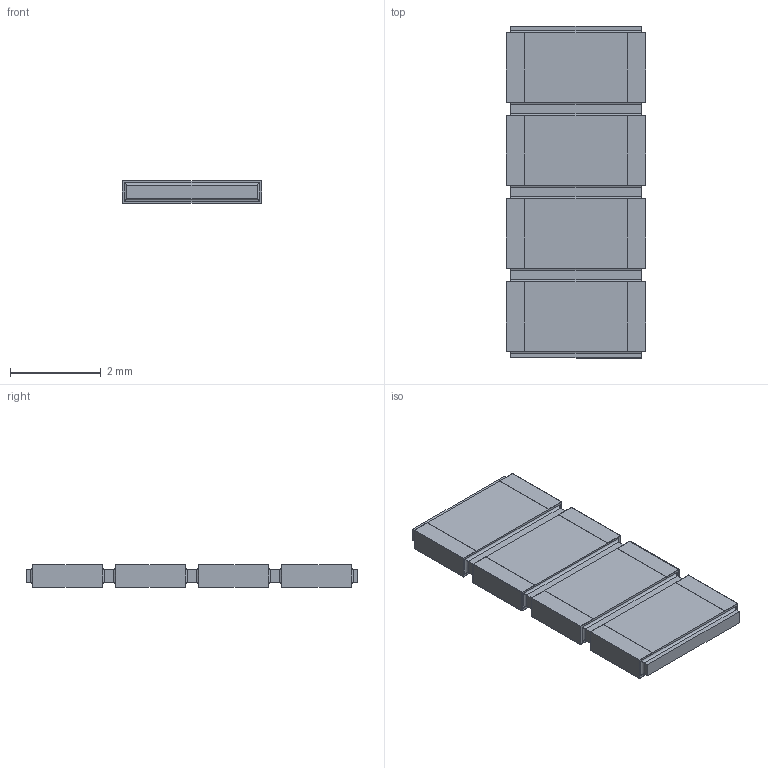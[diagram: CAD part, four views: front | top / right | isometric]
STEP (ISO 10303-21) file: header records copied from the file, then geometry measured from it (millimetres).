
FILE_DESCRIPTION(/* description */ (''),/* implementation_level */ '2;1');
FILE_NAME(/* name */ 'S:\DOCUMENT\AUTOCAD\3D_Modèles\10_3D-pour-VISHAY-COM\PRA\PRA182\PRA182-I2_à_I8\10_IGES\PRA182I4_B-or-N-or-G.stp',/* time_stamp */ '2017-12-18T15:18:18+01:00',/* author */ ('dparmentier'),/* organization */ ('unknown'),/* preprocessor_version */ 'ST-DEVELOPER v17',/* originating_system */ 'Autodesk Inventor 2018',/* authorisation */ '');
FILE_SCHEMA (('AUTOMOTIVE_DESIGN { 1 0 10303 214 3 1 1 }'));
Length unit declared in the file: millimetre
Products named in the file (1): PRA182I4_B-or-N-or-G
Bounding box: 3.06 x 7.3 x 0.5 mm (x, y, z)
Volume: 10.3 mm3; surface area: 88.2 mm2
Topology: 9 solids, 9 shells, 158 faces, 364 edges, 232 vertices
Faces by surface type: plane 126, cylinder 32
Entity records: 4409 total; most frequent: CARTESIAN_POINT 755, ORIENTED_EDGE 728, DIRECTION 714, EDGE_CURVE 364, LINE 332, VECTOR 332, VERTEX_POINT 232, AXIS2_PLACEMENT_3D 191
